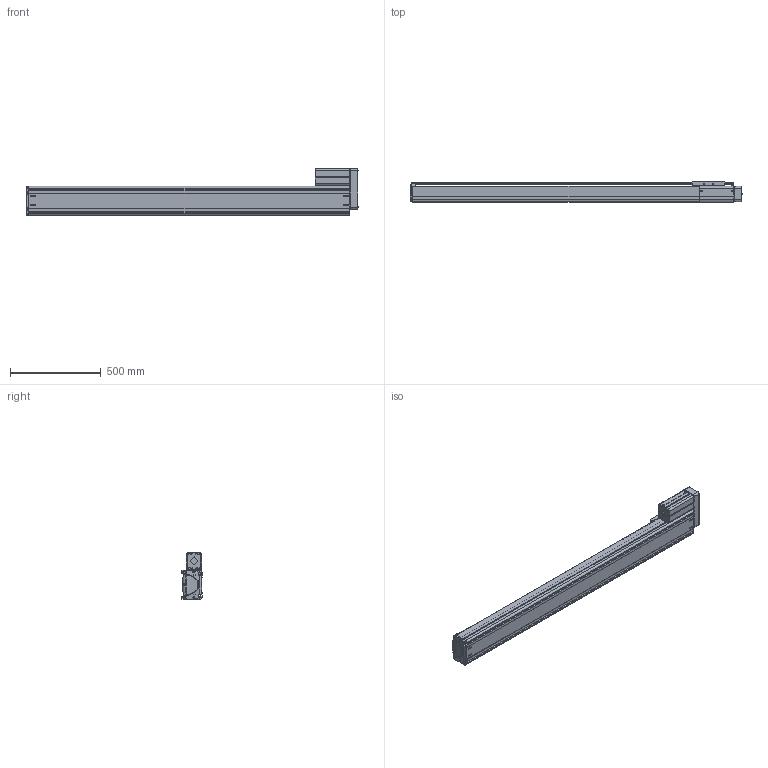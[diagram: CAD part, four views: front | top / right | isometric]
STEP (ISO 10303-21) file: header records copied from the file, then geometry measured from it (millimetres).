
FILE_DESCRIPTION((''),'2;1');
FILE_NAME('BE50F-UR-M_B-F0_IGS_PRT','2017-06-18T',(' '),(''),'PRO/ENGINEER BY PARAMETRIC TECHNOLOGY CORPORATION, 2015030','PRO/ENGINEER BY PARAMETRIC TECHNOLOGY CORPORATION, 2015030','');
FILE_SCHEMA(('CONFIG_CONTROL_DESIGN'));
Length unit declared in the file: millimetre
Products named in the file (1): BE50F-UR-M_B-F0_IGS_PRT
Bounding box: 1825.88 x 110 x 257 mm (x, y, z)
Volume: 6976312.2 mm3; surface area: 2976048 mm2
Topology: 7 solids, 163 shells, 2356 faces, 6486 edges, 4261 vertices
Faces by surface type: cylinder 1052, plane 1018, cone 147, torus 59, bspline 48, sphere 32
Entity records: 78938 total; most frequent: CARTESIAN_POINT 18390, DIRECTION 12585, ORIENTED_EDGE 12327, EDGE_CURVE 6448, AXIS2_PLACEMENT_3D 4513, VERTEX_POINT 4257, VECTOR 3559, LINE 3559
